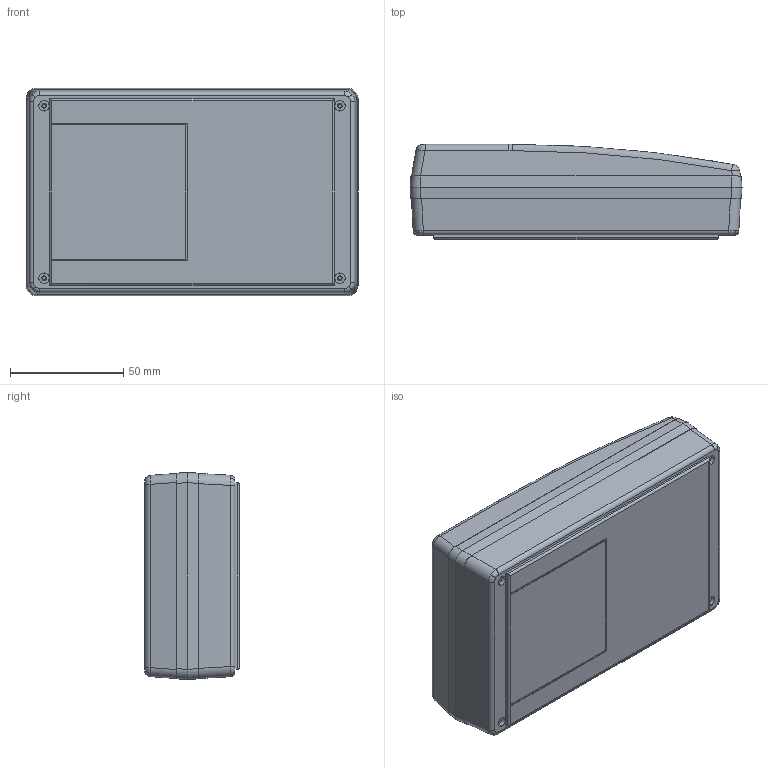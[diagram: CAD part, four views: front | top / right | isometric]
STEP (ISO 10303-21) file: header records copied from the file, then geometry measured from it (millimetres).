
FILE_DESCRIPTION (( 'STEP AP214' ), '1' );
FILE_NAME ('90-63-NO-E-F.STEP', '2020-11-02T19:21:03', ( 'Rudy' ), ( '' ), 'SwSTEP 2.0', 'SolidWorks 2014', '' );
FILE_SCHEMA (( 'AUTOMOTIVE_DESIGN' ));
Length unit declared in the file: inch
Products named in the file (5): 90 PCB NO; 90 expander; 90-Top Sloped Flush; 90-no bat-bottom; 90-63-NO-E-F
Assembly tree (4 placements, depth 2):
  90-63-NO-E-F
    90-no bat-bottom
    90-Top Sloped Flush
    90 expander
    90 PCB NO
Bounding box: 146.8 x 42 x 91.6 mm (x, y, z)
Volume: 188246.5 mm3; surface area: 117802.8 mm2
Topology: 4 solids, 4 shells, 377 faces, 969 edges, 628 vertices
Faces by surface type: plane 224, cylinder 96, cone 40, bspline 17
Entity records: 12090 total; most frequent: CARTESIAN_POINT 2869, ORIENTED_EDGE 1938, DIRECTION 1800, EDGE_CURVE 969, VERTEX_POINT 628, AXIS2_PLACEMENT_3D 613, VECTOR 574, LINE 574
